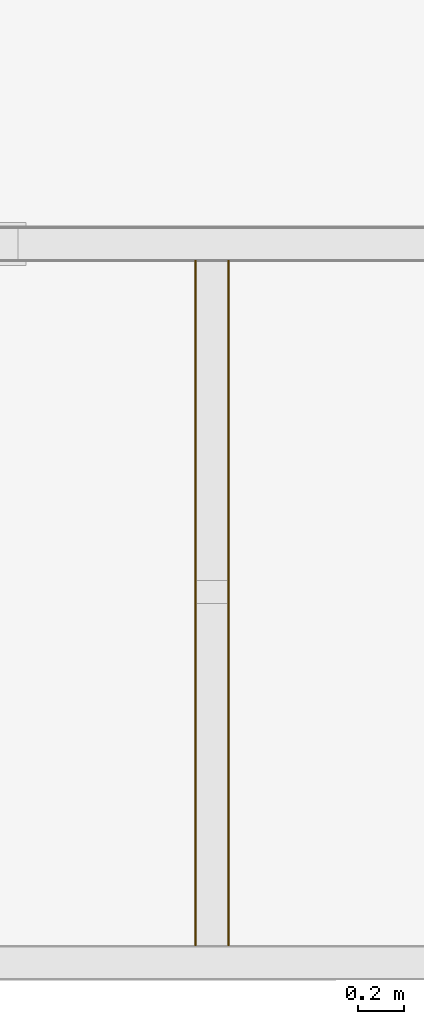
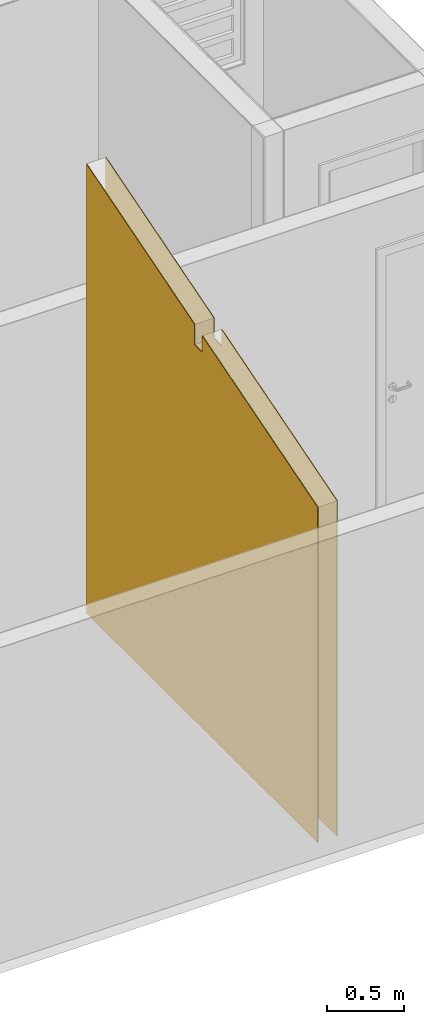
# One storey, part 4 of 7: 2 coverings, 1 element without a shape of its own.
"""IFC2X3 building model written with IfcOpenShell, lengths in millimetres."""

import ifcopenshell
import ifcopenshell.guid

model = None  # the IFC model being written
_history = None  # IfcOwnerHistory: only IFC2X3 demands one
_inside = {}  # id of a spatial element -> (the spatial element, [elements in it])
_under = {}  # id of a project, library or spatial element -> (it, [spatial elements below it])
_declared = {}  # id of a project -> (the project, [libraries it declares])
_typed = {}  # id of a type object -> (the type object, [elements of that type])
_made_of = {}  # id of a material, layer set ... -> (it, [elements and type objects made of it])


def new_model(schema):
    """Start an empty IFC model of exactly this schema.

    Asked for "IFC4X3", IfcOpenShell would pick the latest addendum, in which some entities
    have other attributes; the version numbers below select the first issue.
    IFC2X3 requires an IfcOwnerHistory on every rooted entity: one is made here for all.
    """
    global model, _history
    if schema == "IFC4X3":
        model = ifcopenshell.file(schema_version=(4, 3, 0, 0))
    else:
        model = ifcopenshell.file(schema=schema)
    _inside.clear()
    _under.clear()
    _declared.clear()
    _typed.clear()
    _made_of.clear()
    _history = None
    if model.schema == "IFC2X3":
        org = make("IfcOrganization", Name="unknown")
        user = make(
            "IfcPersonAndOrganization",
            ThePerson=make("IfcPerson", FamilyName="unknown"),
            TheOrganization=org,
        )
        app = make(
            "IfcApplication",
            ApplicationDeveloper=org,
            Version="unknown",
            ApplicationFullName="unknown",
            ApplicationIdentifier="unknown",
        )
        _history = make(
            "IfcOwnerHistory",
            OwningUser=user,
            OwningApplication=app,
            ChangeAction="ADDED",
            CreationDate=0,
        )
    return model


def make(cls, **values):
    """One entity of the class cls with the attributes given. An attribute that is None is left unset."""
    return model.create_entity(
        cls, **{name: value for name, value in values.items() if value is not None}
    )


def entity(cls, *values):
    """Any entity or typed value of the class cls, its attributes in the order of the schema. None: left unset."""
    e = model.create_entity(cls)
    for i, value in enumerate(values):
        if value is not None:
            e[i] = value
    return e


def rooted(cls, **values):
    """An entity with a GlobalId (a new one), such as an element, a storey or a relation."""
    return make(cls, GlobalId=ifcopenshell.guid.new(), OwnerHistory=_history, **values)


def si_unit(unit_type, name, prefix=None):
    """IfcSIUnit, for example si_unit("LENGTHUNIT", "METRE", prefix="MILLI")."""
    return make("IfcSIUnit", UnitType=unit_type, Prefix=prefix, Name=name)


def converted_unit(unit_type, name, factor, base, dimensions=None, offset=None):
    """IfcConversionBasedUnit, such as the inch: factor (a typed value) times the base unit."""
    return make(
        "IfcConversionBasedUnit"
        if offset is None
        else "IfcConversionBasedUnitWithOffset",
        ConversionOffset=offset,
        Dimensions=None
        if dimensions is None
        else entity("IfcDimensionalExponents", *dimensions),
        UnitType=unit_type,
        Name=name,
        ConversionFactor=make(
            "IfcMeasureWithUnit", ValueComponent=factor, UnitComponent=base
        ),
    )


def derived_unit(unit_type, elements):
    """IfcDerivedUnit: a product of units, each with its exponent."""
    return make(
        "IfcDerivedUnit",
        Elements=[
            make("IfcDerivedUnitElement", Unit=unit, Exponent=power)
            for unit, power in elements
        ],
        UnitType=unit_type,
    )


def money_unit(currency):
    """IfcMonetaryUnit."""
    return make("IfcMonetaryUnit", Currency=currency)


def assignment(units):
    """IfcUnitAssignment: the units of a project."""
    return None if units is None else make("IfcUnitAssignment", Units=units)


def point(xyz):
    """IfcCartesianPoint."""
    return None if xyz is None else make("IfcCartesianPoint", Coordinates=xyz)


def direction(xyz):
    """IfcDirection."""
    return None if xyz is None else make("IfcDirection", DirectionRatios=xyz)


def frame(location, z_axis=None, x_axis=None):
    """IfcAxis2Placement3D, a coordinate frame: its origin and axes. An axis left out is left unset."""
    return make(
        "IfcAxis2Placement3D",
        Location=point(location),
        Axis=direction(z_axis),
        RefDirection=direction(x_axis),
    )


def origin_with_axes():
    """The frame at (0, 0, 0) with the z axis (0, 0, 1) and the x axis (1, 0, 0) written out."""
    return frame((0.0, 0.0, 0.0), z_axis=(0.0, 0.0, 1.0), x_axis=(1.0, 0.0, 0.0))


def place(relative_to, where):
    """IfcLocalPlacement: puts the frame where relative to a parent placement (None: the world)."""
    return make(
        "IfcLocalPlacement", PlacementRelTo=relative_to, RelativePlacement=where
    )


def context(
    kind, dimensions, precision=None, world=None, true_north=None, identifier=None
):
    """IfcGeometricRepresentationContext, for example the 3D "Model" context."""
    return make(
        "IfcGeometricRepresentationContext",
        ContextIdentifier=identifier,
        ContextType=kind,
        CoordinateSpaceDimension=dimensions,
        Precision=precision,
        WorldCoordinateSystem=world,
        TrueNorth=true_north,
    )


def subcontext(parent, identifier, kind, view, scale=None):
    """IfcGeometricRepresentationSubContext, for example "Body" below "Model"."""
    return make(
        "IfcGeometricRepresentationSubContext",
        ContextIdentifier=identifier,
        ContextType=kind,
        ParentContext=parent,
        TargetScale=scale,
        TargetView=view,
    )


def project(units=None, contexts=None):
    """IfcProject with its units and contexts."""
    return rooted(
        "IfcProject",
        Name="project",
        RepresentationContexts=contexts,
        UnitsInContext=assignment(units),
    )


def spatial(cls, under=None, at=None, **own):
    """A site, building, storey or space (cls), placed at a placement, below another one or the project."""
    s = rooted(cls, ObjectPlacement=at, **own)
    if under is not None:
        _under.setdefault(under.id(), (under, []))[1].append(s)
    return s


def polyline(points):
    """IfcPolyline through the points."""
    return make("IfcPolyline", Points=[point(p) for p in points])


def outline(outer, holes=None, kind="AREA"):
    """IfcArbitraryClosedProfileDef: a profile drawn as a closed curve; with holes, ...WithVoids."""
    if holes is None:
        return make("IfcArbitraryClosedProfileDef", ProfileType=kind, OuterCurve=outer)
    return make(
        "IfcArbitraryProfileDefWithVoids",
        ProfileType=kind,
        OuterCurve=outer,
        InnerCurves=holes,
    )


def extrude(swept, where, along, depth):
    """IfcExtrudedAreaSolid: the profile swept, set in the frame where, extruded along a direction by depth."""
    return make(
        "IfcExtrudedAreaSolid",
        SweptArea=swept,
        Position=where,
        ExtrudedDirection=direction(along),
        Depth=depth,
    )


def boolean(op, a, b):
    """IfcBooleanResult of two solids."""
    return make("IfcBooleanResult", Operator=op, FirstOperand=a, SecondOperand=b)


def faces_of(points, faces, orient=None, outer=None):
    """IfcFace entities. A face is a list of loops; a loop is a list of indices into points, from 0.

    orient and outer hold one flag for each loop. By default every Orientation is true, the
    first loop of a face is its IfcFaceOuterBound and the others are IfcFaceBound.
    """
    made = []
    for i, loops in enumerate(faces):
        bounds = []
        for j, loop in enumerate(loops):
            is_outer = j == 0 if outer is None else outer[i][j]
            bounds.append(
                make(
                    "IfcFaceOuterBound" if is_outer else "IfcFaceBound",
                    Bound=make("IfcPolyLoop", Polygon=[points[k] for k in loop]),
                    Orientation=True if orient is None else orient[i][j],
                )
            )
        made.append(make("IfcFace", Bounds=bounds))
    return made


def faceted_brep(points, faces, orient=None, outer=None, voids=None):
    """IfcFacetedBrep: a solid bounded by flat faces; with voids (closed shells), ...WithVoids."""
    shared = [point(p) for p in points]
    hull = make("IfcClosedShell", CfsFaces=faces_of(shared, faces, orient, outer))
    if voids is None:
        return make("IfcFacetedBrep", Outer=hull)
    return make(
        "IfcFacetedBrepWithVoids",
        Outer=hull,
        Voids=[
            make(cls, CfsFaces=faces_of(shared, fs, o, b)) for cls, fs, o, b in voids
        ],
    )


def shape(context_of_items, identifier, shape_type, items):
    """IfcShapeRepresentation: the items that make up one representation, for example the "Body"."""
    return make(
        "IfcShapeRepresentation",
        ContextOfItems=context_of_items,
        RepresentationIdentifier=identifier,
        RepresentationType=shape_type,
        Items=items,
    )


def material(Name=None, Category=None):
    """IfcMaterial."""
    return make("IfcMaterial", Name=Name, Category=Category)


def made_of(thing, what):
    """Note that an element or type object is made of a material, layer set ...; save() writes the relation."""
    if what is not None:
        _made_of.setdefault(what.id(), (what, []))[1].append(thing)
    return thing


def type_object(cls, material=None, **own):
    """A type object (cls), such as IfcWallType, which elements share."""
    return made_of(rooted(cls, **own), material)


def element(
    cls,
    number,
    at=None,
    inside=None,
    cuts=None,
    type_object=None,
    material=None,
    context=None,
    identifier="Body",
    shape_type=None,
    held_by="IfcProductDefinitionShape",
    body=None,
    shapes=None,
    **own,
):
    """One element of the class cls, such as IfcWall. Its Tag is "e" and its number.

    at: its placement. inside: the storey or other place that contains it. cuts: it is an
    opening in that element (IfcRelVoidsElement). A single representation is given by context,
    identifier, shape_type and body (its items); several are given by shapes. held_by: the class
    of the entity that holds the representations. save() writes the other relations.
    """
    e = rooted(cls, Tag="e%d" % number, ObjectPlacement=at, **own)
    if body is not None:
        shapes = [shape(context, identifier, shape_type, body)]
    if shapes is not None:
        e.Representation = make(held_by, Representations=shapes)
    if inside is not None:
        _inside.setdefault(inside.id(), (inside, []))[1].append(e)
    if cuts is not None:
        rooted(
            "IfcRelVoidsElement", RelatingBuildingElement=cuts, RelatedOpeningElement=e
        )
    if type_object is not None:
        _typed.setdefault(type_object.id(), (type_object, []))[1].append(e)
    return made_of(e, material)


def aggregate(whole, parts):
    """IfcRelAggregates: a whole, such as a stair, and the parts it consists of."""
    return rooted("IfcRelAggregates", RelatingObject=whole, RelatedObjects=parts)


def save(model, path):
    """Write the relations noted so far, then the file.

    IfcRelAggregates (storeys below a building ...), IfcRelContainedInSpatialStructure (elements
    in a storey), IfcRelDefinesByType, IfcRelAssociatesMaterial and IfcRelDeclares: one each for
    every whole, place, type object, material and project.
    """
    for whole, parts in _under.values():
        aggregate(whole, parts)
    for where, things in _inside.values():
        rooted(
            "IfcRelContainedInSpatialStructure",
            RelatedElements=things,
            RelatingStructure=where,
        )
    for kind, things in _typed.values():
        rooted("IfcRelDefinesByType", RelatedObjects=things, RelatingType=kind)
    for what, things in _made_of.values():
        rooted("IfcRelAssociatesMaterial", RelatedObjects=things, RelatingMaterial=what)
    for by, libraries in _declared.values():
        rooted("IfcRelDeclares", RelatingContext=by, RelatedDefinitions=libraries)
    model.write(path)


model = new_model("IFC2X3")

# Units and contexts
model_context = context("Model", 3, precision=0.01, world=origin_with_axes(), true_north=direction((0.0, 1.0)))
body_context = subcontext(model_context, "Body", "Model", "MODEL_VIEW")
ifc_project = project(units=[si_unit("LENGTHUNIT", "METRE", prefix="MILLI"), si_unit("AREAUNIT", "SQUARE_METRE"), si_unit("VOLUMEUNIT", "CUBIC_METRE"), converted_unit("PLANEANGLEUNIT", "DEGREE", entity("IfcPlaneAngleMeasure", 0.0174532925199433), si_unit("PLANEANGLEUNIT", "RADIAN"), dimensions=[0, 0, 0, 0, 0, 0, 0]), money_unit("USD"), converted_unit("TIMEUNIT", "Year", entity("IfcTimeMeasure", 31557600.0), si_unit("TIMEUNIT", "SECOND"), dimensions=[0, 0, 1, 0, 0, 0, 0]), si_unit("MASSUNIT", "GRAM", prefix="KILO"), si_unit("THERMODYNAMICTEMPERATUREUNIT", "DEGREE_CELSIUS"), si_unit("LUMINOUSINTENSITYUNIT", "LUMEN"), si_unit("ENERGYUNIT", "JOULE", prefix="MEGA"), derived_unit("THERMALCONDUCTANCEUNIT", [(si_unit("POWERUNIT", "WATT"), 1), (si_unit("LENGTHUNIT", "METRE"), -1), (si_unit("THERMODYNAMICTEMPERATUREUNIT", "KELVIN"), -1)]), derived_unit("SPECIFICHEATCAPACITYUNIT", [(si_unit("ENERGYUNIT", "JOULE"), 1), (si_unit("MASSUNIT", "GRAM", prefix="KILO"), -1), (si_unit("THERMODYNAMICTEMPERATUREUNIT", "KELVIN"), -1)]), derived_unit("MASSDENSITYUNIT", [(si_unit("MASSUNIT", "GRAM", prefix="KILO"), 1), (si_unit("VOLUMEUNIT", "CUBIC_METRE"), -1)])], contexts=[model_context])

# Site, building, storey
site_placement = place(None, origin_with_axes())
site = spatial("IfcSite", under=ifc_project, at=site_placement, Name="Local", CompositionType="ELEMENT")
building_placement = place(site_placement, origin_with_axes())
building = spatial("IfcBuilding", under=site, at=building_placement, Name="Construção", CompositionType="ELEMENT")
storey_placement = place(building_placement, origin_with_axes())
storey = spatial("IfcBuildingStorey", under=building, at=storey_placement, Name="Pavimento Térreo", CompositionType="ELEMENT", Elevation=0.0)

# Wall, coverings
wall_type = type_object("IfcWallType", Name="Alvenaria 140, Rebocada 2 Faces 150", PredefinedType="NOTDEFINED")
wall_placement = place(storey_placement, frame((3299.999999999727, 149.9999999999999, 0.0), z_axis=(0.0, 0.0, 1.0), x_axis=(0.0, 1.0, 0.0)))
wall = element("IfcWall", 1, at=wall_placement, inside=storey, type_object=wall_type, Name="Parede-06")
ifc_material = material(Name="Reboco DEF")
covering_1_placement = place(wall_placement, origin_with_axes())
covering_1 = element("IfcCovering", 2, at=covering_1_placement, material=ifc_material, Name="Reboco DEF", PredefinedType="CLADDING", context=body_context, shape_type="CSG", body=[
    boolean("DIFFERENCE", boolean("DIFFERENCE", boolean("DIFFERENCE", boolean("DIFFERENCE", boolean("DIFFERENCE", boolean("DIFFERENCE", extrude(outline(polyline([(0.0, 0.0), (3005.000000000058, 0.0), (3005.000000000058, 4.999999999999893), (0.0, 4.999999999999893), (0.0, 0.0)])), origin_with_axes(), (0.0, 0.0, 1.0), 5897.788795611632), faceted_brep([(3005.000000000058, 0.0, 2500.0), (3005.000000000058, 4.999999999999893, 2500.0), (3005.000000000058, 4.999999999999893, 2580.0), (3005.000000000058, 0.0, 2580.0), (2999.999999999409, 0.0, 2500.0), (2999.999999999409, 5.000000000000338, 2500.0), (2999.999999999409, 5.000000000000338, 2580.0), (2999.999999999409, 0.0, 2580.0)], [[[0, 1, 2, 3]], [[1, 0, 4, 5]], [[6, 2, 1, 5]], [[7, 3, 2, 6]], [[4, 0, 3, 7]], [[4, 7, 6, 5]]])), faceted_brep([(1600.000000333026, 0.0, 2980.451740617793), (1600.000000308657, 0.0, 3140.451740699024), (3005.000000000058, 0.0, 3561.951740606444), (3005.000000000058, 0.0, 5897.788795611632), (0.0, 0.0, 5897.788795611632), (0.0, 0.0, 2660.451740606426), (1500.000000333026, 0.0, 3110.451740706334), (1500.000000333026, 0.0, 2980.451740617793), (1600.000000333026, 5.000000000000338, 2980.451740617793), (1600.000000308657, 5.000000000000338, 3140.451740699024), (3005.000000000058, 4.999999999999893, 3561.951740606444), (3005.000000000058, 4.999999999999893, 5897.788795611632), (0.0, 4.999999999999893, 5897.788795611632), (0.0, 4.999999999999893, 2660.451740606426), (1500.000000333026, 5.000000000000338, 3110.451740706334), (1500.000000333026, 5.000000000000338, 2980.451740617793)], [[[0, 1, 2, 3, 4, 5, 6, 7]], [[1, 0, 8, 9]], [[10, 2, 1, 9]], [[2, 10, 11, 3]], [[12, 4, 3, 11]], [[13, 5, 4, 12]], [[6, 5, 13, 14]], [[7, 6, 14, 15]], [[0, 7, 15, 8]], [[14, 13, 12, 11, 10, 9, 8, 15]]])), faceted_brep([(3005.000000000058, 4.999999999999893, 2500.0), (3005.000000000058, 145.0, 2500.0), (3005.000000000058, 145.0, 2580.0), (3005.000000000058, 4.999999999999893, 2580.0), (2999.999999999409, 5.000000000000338, 2500.0), (2999.999999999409, 145.0000000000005, 2500.0), (2999.999999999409, 145.0000000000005, 2580.0), (2999.999999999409, 5.000000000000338, 2580.0)], [[[0, 1, 2, 3]], [[1, 0, 4, 5]], [[6, 2, 1, 5]], [[3, 2, 6, 7]], [[4, 0, 3, 7]], [[6, 5, 4, 7]]])), faceted_brep([(1600.000000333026, 5.000000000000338, 2980.451740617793), (1600.000000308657, 5.000000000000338, 3140.451740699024), (3005.000000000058, 4.999999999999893, 3561.951740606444), (3005.000000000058, 4.999999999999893, 5897.788795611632), (0.0, 4.999999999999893, 5897.788795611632), (0.0, 4.999999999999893, 2660.451740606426), (1500.000000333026, 5.000000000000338, 3110.451740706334), (1500.000000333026, 5.000000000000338, 2980.451740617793), (1600.000000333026, 145.0000000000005, 2980.451740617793), (1600.000000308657, 145.0000000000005, 3140.451740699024), (3005.000000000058, 145.0, 3561.951740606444), (3005.000000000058, 145.0, 5897.788795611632), (0.0, 145.0, 5897.788795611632), (0.0, 145.0, 2660.451740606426), (1500.000000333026, 145.0000000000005, 3110.451740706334), (1500.000000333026, 145.0000000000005, 2980.451740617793)], [[[0, 1, 2, 3, 4, 5, 6, 7]], [[1, 0, 8, 9]], [[10, 2, 1, 9]], [[2, 10, 11, 3]], [[12, 4, 3, 11]], [[13, 5, 4, 12]], [[6, 5, 13, 14]], [[14, 15, 7, 6]], [[15, 8, 0, 7]], [[14, 13, 12, 11, 10, 9, 8, 15]]])), faceted_brep([(3005.000000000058, 145.0, 2500.0), (3005.000000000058, 149.9999999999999, 2500.0), (3005.000000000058, 149.9999999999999, 2580.0), (3005.000000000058, 145.0, 2580.0), (2999.999999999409, 145.0000000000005, 2500.0), (2999.999999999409, 150.0000000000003, 2500.0), (2999.999999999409, 150.0000000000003, 2580.0), (2999.999999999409, 145.0000000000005, 2580.0)], [[[0, 1, 2, 3]], [[1, 0, 4, 5]], [[6, 2, 1, 5]], [[3, 2, 6, 7]], [[4, 0, 3, 7]], [[6, 5, 4, 7]]])), faceted_brep([(1600.000000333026, 145.0000000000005, 2980.451740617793), (1600.000000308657, 145.0000000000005, 3140.451740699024), (3005.000000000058, 145.0, 3561.951740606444), (3005.000000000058, 145.0, 5897.788795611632), (0.0, 145.0, 5897.788795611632), (0.0, 145.0, 2660.451740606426), (1500.000000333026, 145.0000000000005, 3110.451740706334), (1500.000000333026, 145.0000000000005, 2980.451740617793), (1600.000000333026, 150.0000000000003, 2980.451740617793), (1600.000000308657, 150.0000000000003, 3140.451740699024), (3005.000000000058, 149.9999999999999, 3561.951740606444), (3005.000000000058, 149.9999999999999, 5897.788795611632), (0.0, 149.9999999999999, 5897.788795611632), (0.0, 149.9999999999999, 2660.451740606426), (1500.000000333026, 150.0000000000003, 3110.451740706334), (1500.000000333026, 150.0000000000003, 2980.451740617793)], [[[0, 1, 2, 3, 4, 5, 6, 7]], [[8, 9, 1, 0]], [[10, 2, 1, 9]], [[2, 10, 11, 3]], [[12, 4, 3, 11]], [[13, 5, 4, 12]], [[6, 5, 13, 14]], [[14, 15, 7, 6]], [[15, 8, 0, 7]], [[14, 13, 12, 11, 10, 9, 8, 15]]])),
])
covering_2_placement = place(wall_placement, origin_with_axes())
covering_2 = element("IfcCovering", 3, at=covering_2_placement, material=ifc_material, Name="Reboco DEF", PredefinedType="CLADDING", context=body_context, shape_type="CSG", body=[
    boolean("DIFFERENCE", boolean("DIFFERENCE", boolean("DIFFERENCE", boolean("DIFFERENCE", boolean("DIFFERENCE", boolean("DIFFERENCE", extrude(outline(polyline([(0.0, 145.0), (3005.000000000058, 145.0), (3005.000000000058, 149.9999999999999), (0.0, 149.9999999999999), (0.0, 145.0)])), origin_with_axes(), (0.0, 0.0, 1.0), 5897.788795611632), faceted_brep([(3005.000000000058, 0.0, 2500.0), (3005.000000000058, 4.999999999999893, 2500.0), (3005.000000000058, 4.999999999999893, 2580.0), (3005.000000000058, 0.0, 2580.0), (2999.999999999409, 0.0, 2500.0), (2999.999999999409, 5.000000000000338, 2500.0), (2999.999999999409, 5.000000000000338, 2580.0), (2999.999999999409, 0.0, 2580.0)], [[[0, 1, 2, 3]], [[1, 0, 4, 5]], [[6, 2, 1, 5]], [[7, 3, 2, 6]], [[4, 0, 3, 7]], [[4, 7, 6, 5]]])), faceted_brep([(1600.000000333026, 0.0, 2980.451740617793), (1600.000000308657, 0.0, 3140.451740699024), (3005.000000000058, 0.0, 3561.951740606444), (3005.000000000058, 0.0, 5897.788795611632), (0.0, 0.0, 5897.788795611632), (0.0, 0.0, 2660.451740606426), (1500.000000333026, 0.0, 3110.451740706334), (1500.000000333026, 0.0, 2980.451740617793), (1600.000000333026, 5.000000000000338, 2980.451740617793), (1600.000000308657, 5.000000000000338, 3140.451740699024), (3005.000000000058, 4.999999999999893, 3561.951740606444), (3005.000000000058, 4.999999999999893, 5897.788795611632), (0.0, 4.999999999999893, 5897.788795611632), (0.0, 4.999999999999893, 2660.451740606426), (1500.000000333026, 5.000000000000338, 3110.451740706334), (1500.000000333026, 5.000000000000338, 2980.451740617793)], [[[0, 1, 2, 3, 4, 5, 6, 7]], [[1, 0, 8, 9]], [[10, 2, 1, 9]], [[2, 10, 11, 3]], [[12, 4, 3, 11]], [[13, 5, 4, 12]], [[6, 5, 13, 14]], [[7, 6, 14, 15]], [[0, 7, 15, 8]], [[14, 13, 12, 11, 10, 9, 8, 15]]])), faceted_brep([(3005.000000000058, 4.999999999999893, 2500.0), (3005.000000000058, 145.0, 2500.0), (3005.000000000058, 145.0, 2580.0), (3005.000000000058, 4.999999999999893, 2580.0), (2999.999999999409, 5.000000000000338, 2500.0), (2999.999999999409, 145.0000000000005, 2500.0), (2999.999999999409, 145.0000000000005, 2580.0), (2999.999999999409, 5.000000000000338, 2580.0)], [[[0, 1, 2, 3]], [[1, 0, 4, 5]], [[6, 2, 1, 5]], [[3, 2, 6, 7]], [[4, 0, 3, 7]], [[6, 5, 4, 7]]])), faceted_brep([(1600.000000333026, 5.000000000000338, 2980.451740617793), (1600.000000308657, 5.000000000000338, 3140.451740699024), (3005.000000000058, 4.999999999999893, 3561.951740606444), (3005.000000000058, 4.999999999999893, 5897.788795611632), (0.0, 4.999999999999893, 5897.788795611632), (0.0, 4.999999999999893, 2660.451740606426), (1500.000000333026, 5.000000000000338, 3110.451740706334), (1500.000000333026, 5.000000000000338, 2980.451740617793), (1600.000000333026, 145.0000000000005, 2980.451740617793), (1600.000000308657, 145.0000000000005, 3140.451740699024), (3005.000000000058, 145.0, 3561.951740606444), (3005.000000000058, 145.0, 5897.788795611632), (0.0, 145.0, 5897.788795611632), (0.0, 145.0, 2660.451740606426), (1500.000000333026, 145.0000000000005, 3110.451740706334), (1500.000000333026, 145.0000000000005, 2980.451740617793)], [[[0, 1, 2, 3, 4, 5, 6, 7]], [[1, 0, 8, 9]], [[10, 2, 1, 9]], [[2, 10, 11, 3]], [[12, 4, 3, 11]], [[13, 5, 4, 12]], [[6, 5, 13, 14]], [[14, 15, 7, 6]], [[15, 8, 0, 7]], [[14, 13, 12, 11, 10, 9, 8, 15]]])), faceted_brep([(3005.000000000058, 145.0, 2500.0), (3005.000000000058, 149.9999999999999, 2500.0), (3005.000000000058, 149.9999999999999, 2580.0), (3005.000000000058, 145.0, 2580.0), (2999.999999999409, 145.0000000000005, 2500.0), (2999.999999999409, 150.0000000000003, 2500.0), (2999.999999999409, 150.0000000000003, 2580.0), (2999.999999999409, 145.0000000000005, 2580.0)], [[[0, 1, 2, 3]], [[1, 0, 4, 5]], [[6, 2, 1, 5]], [[3, 2, 6, 7]], [[4, 0, 3, 7]], [[6, 5, 4, 7]]])), faceted_brep([(1600.000000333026, 145.0000000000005, 2980.451740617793), (1600.000000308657, 145.0000000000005, 3140.451740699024), (3005.000000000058, 145.0, 3561.951740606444), (3005.000000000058, 145.0, 5897.788795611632), (0.0, 145.0, 5897.788795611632), (0.0, 145.0, 2660.451740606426), (1500.000000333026, 145.0000000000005, 3110.451740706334), (1500.000000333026, 145.0000000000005, 2980.451740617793), (1600.000000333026, 150.0000000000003, 2980.451740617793), (1600.000000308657, 150.0000000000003, 3140.451740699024), (3005.000000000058, 149.9999999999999, 3561.951740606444), (3005.000000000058, 149.9999999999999, 5897.788795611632), (0.0, 149.9999999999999, 5897.788795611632), (0.0, 149.9999999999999, 2660.451740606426), (1500.000000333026, 150.0000000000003, 3110.451740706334), (1500.000000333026, 150.0000000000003, 2980.451740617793)], [[[0, 1, 2, 3, 4, 5, 6, 7]], [[8, 9, 1, 0]], [[10, 2, 1, 9]], [[2, 10, 11, 3]], [[12, 4, 3, 11]], [[13, 5, 4, 12]], [[6, 5, 13, 14]], [[14, 15, 7, 6]], [[15, 8, 0, 7]], [[14, 13, 12, 11, 10, 9, 8, 15]]])),
])
aggregate(wall, [covering_1, covering_2])

save(model, "model.ifc")
